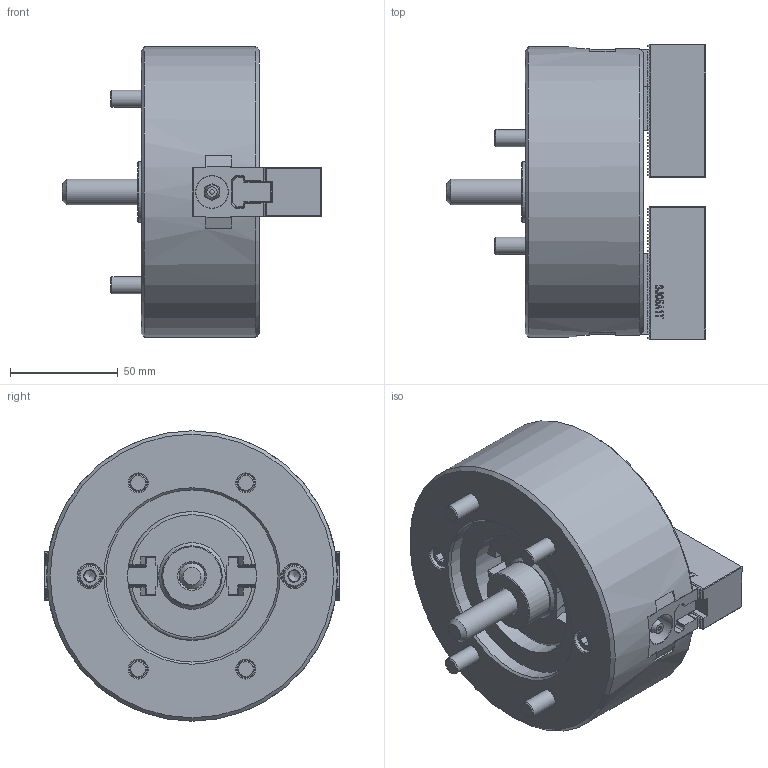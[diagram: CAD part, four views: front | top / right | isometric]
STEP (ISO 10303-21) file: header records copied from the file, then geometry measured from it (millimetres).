
FILE_DESCRIPTION (( 'STEP AP214' ), '1' );
FILE_NAME ('DT1_NT05_OUTSIDE_VIEW_HCL.STEP', '2024-05-14T01:00:28', ( '' ), ( '' ), 'SwSTEP 2.0', 'SolidWorks 2022', '' );
FILE_SCHEMA (( 'AUTOMOTIVE_DESIGN' ));
Length unit declared in the file: millimetre
Products named in the file (10): DT1_NT05_SOFTJAW^DT1_NT05_ﾃﾞﾌｫﾙﾄ; DT1_NT05_M4x8^DT1_NT05_ﾃﾞﾌｫﾙﾄ; DT1_NT05_DRAWSCREW^DT1_NT05_ﾃﾞﾌｫﾙﾄ; DT1_NT05_DN^DT1_NT05_ﾃﾞﾌｫﾙﾄ; DT1_NT05_TNUT^DT1_NT05_ﾃﾞﾌｫﾙﾄ; DT1_NT05_OUTSIDE_VIEW_HCL; DT1_NT05_COVER^DT1_NT05_ﾃﾞﾌｫﾙﾄ; DT1_NT05_M8x22^DT1_NT05_ﾃﾞﾌｫﾙﾄ; DT1_NT05_BASE^DT1_NT05_ﾃﾞﾌｫﾙﾄ; DT1_NT05_M8x60^DT1_NT05_ﾃﾞﾌｫﾙﾄ
Assembly tree (20 placements, depth 2):
  DT1_NT05_OUTSIDE_VIEW_HCL
    DT1_NT05_SOFTJAW^DT1_NT05_ﾃﾞﾌｫﾙﾄ  x2
    DT1_NT05_TNUT^DT1_NT05_ﾃﾞﾌｫﾙﾄ  x2
    DT1_NT05_COVER^DT1_NT05_ﾃﾞﾌｫﾙﾄ
    DT1_NT05_DRAWSCREW^DT1_NT05_ﾃﾞﾌｫﾙﾄ
    DT1_NT05_DN^DT1_NT05_ﾃﾞﾌｫﾙﾄ
    DT1_NT05_BASE^DT1_NT05_ﾃﾞﾌｫﾙﾄ
    DT1_NT05_M8x22^DT1_NT05_ﾃﾞﾌｫﾙﾄ  x4
    DT1_NT05_M8x60^DT1_NT05_ﾃﾞﾌｫﾙﾄ  x4
    DT1_NT05_M4x8^DT1_NT05_ﾃﾞﾌｫﾙﾄ  x4
Bounding box: 120.6 x 137.57 x 135 mm (x, y, z)
Volume: 797845 mm3; surface area: 131755.2 mm2
Topology: 20 solids, 20 shells, 2732 faces, 7694 edges, 5058 vertices
Faces by surface type: plane 1924, cylinder 441, bspline 216, cone 128, torus 21, sphere 2
Full cylindrical faces by diameter (mm): 2 x2, 3.3 x4, 3.571 x4, 4 x4, 6.99 x4, 8 x12, 8.3 x4, 8.5 x8, 10.22 x2, 10.5 x1, 11 x2, 12 x2, 13.27 x8, 13.5 x4, 14 x4, 15 x2, 17.5 x1, 18 x1, 28 x1, 60 x1, 80 x1, 135 x1
Entity records: 73132 total; most frequent: CARTESIAN_POINT 22035, ORIENTED_EDGE 11322, DIRECTION 9083, EDGE_CURVE 5661, VECTOR 4367, LINE 4367, VERTEX_POINT 3788, AXIS2_PLACEMENT_3D 2358
